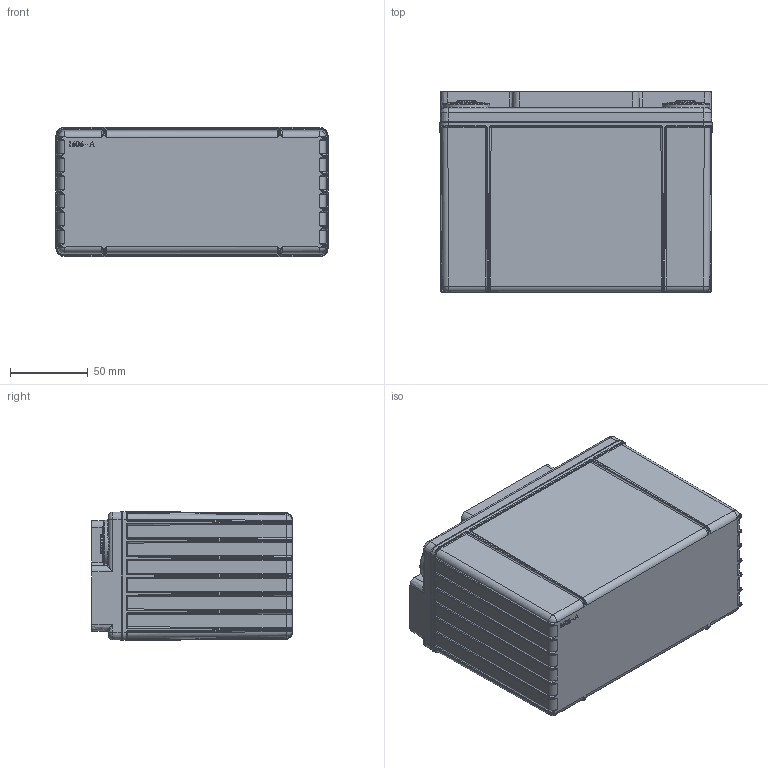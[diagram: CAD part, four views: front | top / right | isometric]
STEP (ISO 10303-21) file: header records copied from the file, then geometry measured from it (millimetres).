
FILE_DESCRIPTION (( 'STEP AP203' ), '1' );
FILE_NAME ('ODS-AGM15L.STEP', '2024-03-25T15:21:29', ( '' ), ( '' ), 'SwSTEP 2.0', 'SolidWorks 2022', '' );
FILE_SCHEMA (( 'CONFIG_CONTROL_DESIGN' ));
Products named in the file (1): ODS-AGM15L
Bounding box: 175.01 x 128.98 x 82.98 mm (x, y, z)
Volume: 348823 mm3; surface area: 320924.4 mm2
Topology: 8 solids, 8 shells, 2562 faces, 6204 edges, 3559 vertices
Faces by surface type: cylinder 838, bspline 721, plane 610, torus 191, cone 146, sphere 56
Full cylindrical faces by diameter (mm): 1.575 x6, 3.81 x1, 6.35 x2, 7.62 x7, 7.925 x5, 9.525 x2, 10.668 x2, 12.7 x6, 13.208 x4, 17.78 x2, 25.273 x2
Entity records: 87953 total; most frequent: CARTESIAN_POINT 36366, ORIENTED_EDGE 11610, DIRECTION 9607, EDGE_CURVE 5805, AXIS2_PLACEMENT_3D 3677, VERTEX_POINT 3483, EDGE_LOOP 2816, FACE_OUTER_BOUND 2650
